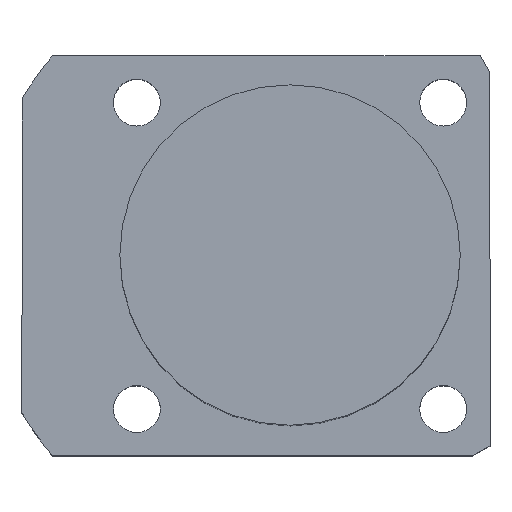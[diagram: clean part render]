
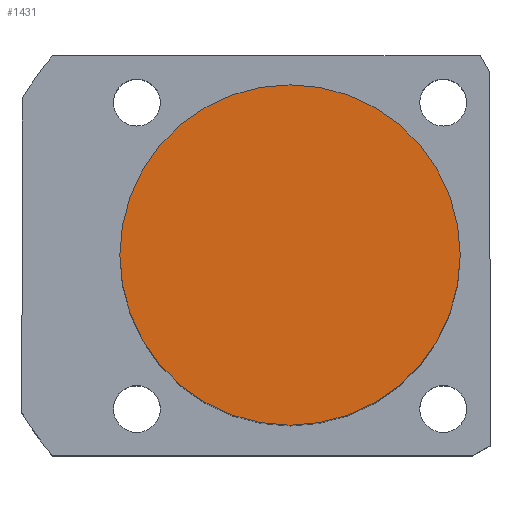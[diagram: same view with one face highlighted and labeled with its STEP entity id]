
A CAD part, top view. The second image highlights one B-rep face of the part: STEP entity #1431.
In plain terms, the highlighted planar face has unit normal (0, 0, 1).
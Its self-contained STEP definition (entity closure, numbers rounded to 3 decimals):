
#113 = CARTESIAN_POINT ( 'NONE',  ( 0., 0., 66.5 ) ) ;
#129 = AXIS2_PLACEMENT_3D ( 'NONE', #1529, #1199, #482 ) ;
#199 = DIRECTION ( 'NONE',  ( 1., 0., 0. ) ) ;
#266 = DIRECTION ( 'NONE',  ( 0., 0., 1. ) ) ;
#302 = DIRECTION ( 'NONE',  ( 1., 0., 0. ) ) ;
#384 = VERTEX_POINT ( 'NONE', #1060 ) ;
#482 = DIRECTION ( 'NONE',  ( 1., 0., 0. ) ) ;
#642 = CARTESIAN_POINT ( 'NONE',  ( -20., 0., 66.5 ) ) ;
#665 = EDGE_CURVE ( 'NONE', #1803, #384, #880, .T. ) ;
#716 = EDGE_LOOP ( 'NONE', ( #1839, #1743 ) ) ;
#818 = AXIS2_PLACEMENT_3D ( 'NONE', #113, #266, #302 ) ;
#867 = EDGE_CURVE ( 'NONE', #384, #1803, #1761, .T. ) ;
#880 = CIRCLE ( 'NONE', #818, 20. ) ;
#1060 = CARTESIAN_POINT ( 'NONE',  ( 20., 0., 66.5 ) ) ;
#1197 = FACE_OUTER_BOUND ( 'NONE', #716, .T. ) ;
#1199 = DIRECTION ( 'NONE',  ( 0., 0., 1. ) ) ;
#1210 = DIRECTION ( 'NONE',  ( 0., 0., 1. ) ) ;
#1431 = ADVANCED_FACE ( 'NONE', ( #1197 ), #1826, .T. ) ;
#1506 = CARTESIAN_POINT ( 'NONE',  ( 0., 0., 66.5 ) ) ;
#1529 = CARTESIAN_POINT ( 'NONE',  ( 0., 0., 66.5 ) ) ;
#1743 = ORIENTED_EDGE ( 'NONE', *, *, #867, .T. ) ;
#1761 = CIRCLE ( 'NONE', #129, 20. ) ;
#1803 = VERTEX_POINT ( 'NONE', #642 ) ;
#1826 = PLANE ( 'NONE',  #1912 ) ;
#1839 = ORIENTED_EDGE ( 'NONE', *, *, #665, .T. ) ;
#1912 = AXIS2_PLACEMENT_3D ( 'NONE', #1506, #1210, #199 ) ;
